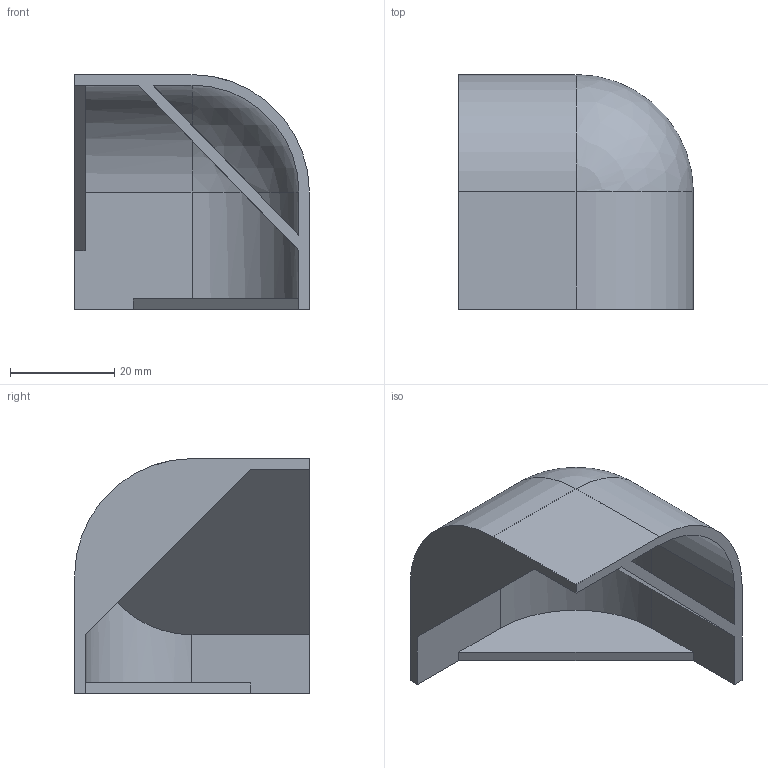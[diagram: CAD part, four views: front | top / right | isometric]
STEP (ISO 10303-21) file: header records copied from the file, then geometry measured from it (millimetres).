
FILE_DESCRIPTION (( 'STEP AP214' ), '1' );
FILE_NAME ('SL01014.step', '2024-12-03T16:30:41', ( '' ), ( '' ), 'SwSTEP 2.0', 'SolidWorks 2023', '' );
FILE_SCHEMA (( 'AUTOMOTIVE_DESIGN' ));
Length unit declared in the file: millimetre
Products named in the file (1): SL01014
Bounding box: 45 x 45 x 45 mm (x, y, z)
Volume: 13823.5 mm3; surface area: 14065.3 mm2
Topology: 1 solids, 1 shells, 28 faces, 71 edges, 44 vertices
Faces by surface type: plane 17, cylinder 8, sphere 3
Entity records: 844 total; most frequent: CARTESIAN_POINT 154, DIRECTION 139, ORIENTED_EDGE 138, EDGE_CURVE 69, LINE 49, VECTOR 49, AXIS2_PLACEMENT_3D 45, VERTEX_POINT 44
